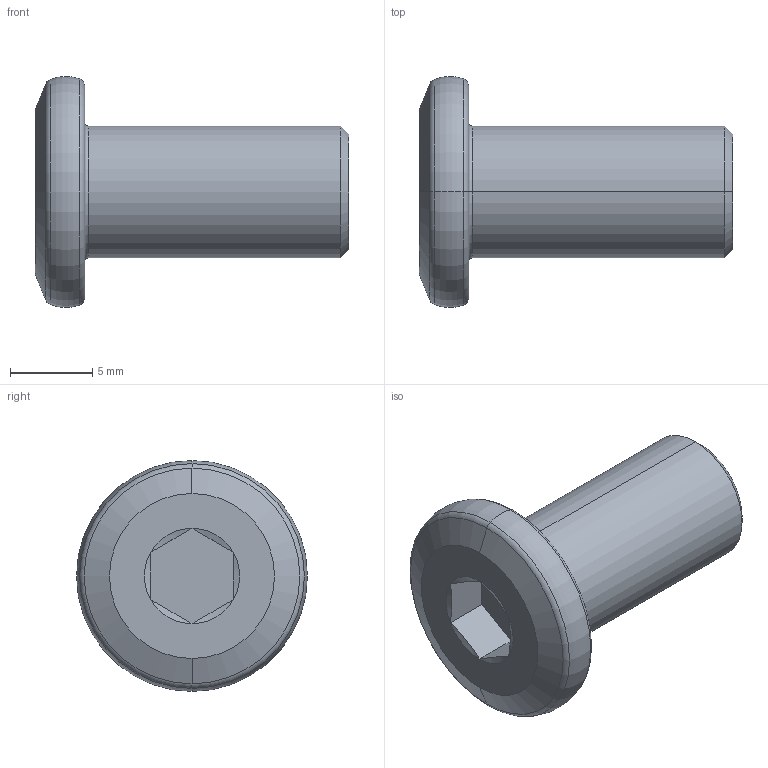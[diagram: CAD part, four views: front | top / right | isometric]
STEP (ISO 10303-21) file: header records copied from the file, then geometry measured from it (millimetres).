
FILE_DESCRIPTION (( 'STEP AP203' ), '1' );
FILE_NAME ('LGD-304D-M8x16.STEP', '2026-08-13T08:17:58', ( '' ), ( '' ), 'SwSTEP 2.0', 'SolidWorks 2020', '' );
FILE_SCHEMA (( 'CONFIG_CONTROL_DESIGN' ));
Length unit declared in the file: millimetre
Products named in the file (1): LGD-304D-M8x16
Bounding box: 19 x 14 x 14 mm (x, y, z)
Volume: 1162.7 mm3; surface area: 826.2 mm2
Topology: 1 solids, 1 shells, 30 faces, 56 edges, 30 vertices
Faces by surface type: cone 10, plane 10, torus 8, cylinder 2
Entity records: 827 total; most frequent: DIRECTION 144, CARTESIAN_POINT 143, ORIENTED_EDGE 112, AXIS2_PLACEMENT_3D 63, EDGE_CURVE 56, CIRCLE 32, EDGE_LOOP 32, VERTEX_POINT 30
